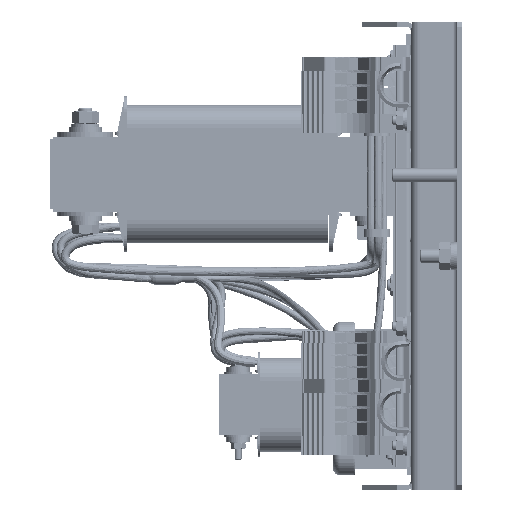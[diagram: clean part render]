
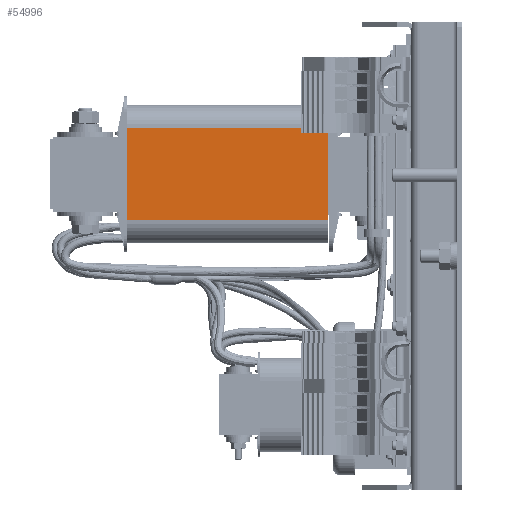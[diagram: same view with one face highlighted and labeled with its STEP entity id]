
A CAD part, left-side view. The second image highlights one B-rep face of the part: STEP entity #54996.
In plain terms, the highlighted planar face has unit normal (-1, 0, 0).
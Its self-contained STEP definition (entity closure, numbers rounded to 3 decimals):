
#54155=DIRECTION('',(0.,0.,-1.));
#54156=VECTOR('',#54155,39.);
#54157=CARTESIAN_POINT('',(-29.,121.15,54.5));
#54158=LINE('',#54157,#54156);
#54386=DIRECTION('',(0.,0.,-1.));
#54387=VECTOR('',#54386,39.);
#54388=CARTESIAN_POINT('',(-29.,35.15,54.5));
#54389=LINE('',#54388,#54387);
#54416=DIRECTION('',(0.,1.,0.));
#54417=VECTOR('',#54416,86.);
#54418=CARTESIAN_POINT('',(-29.,35.15,15.5));
#54419=LINE('',#54418,#54417);
#54420=DIRECTION('',(0.,1.,0.));
#54421=VECTOR('',#54420,86.);
#54422=CARTESIAN_POINT('',(-29.,35.15,54.5));
#54423=LINE('',#54422,#54421);
#54501=CARTESIAN_POINT('',(-29.,121.15,15.5));
#54503=VERTEX_POINT('',#54501);
#54504=CARTESIAN_POINT('',(-29.,35.15,15.5));
#54505=VERTEX_POINT('',#54504);
#54508=CARTESIAN_POINT('',(-29.,121.15,54.5));
#54510=VERTEX_POINT('',#54508);
#54514=CARTESIAN_POINT('',(-29.,35.15,54.5));
#54515=VERTEX_POINT('',#54514);
#54984=CARTESIAN_POINT('',(-29.,121.15,64.5));
#54985=DIRECTION('',(-1.,0.,0.));
#54986=DIRECTION('',(0.,0.,-1.));
#54987=AXIS2_PLACEMENT_3D('',#54984,#54985,#54986);
#54988=PLANE('',#54987);
#54989=ORIENTED_EDGE('',*,*,#54977,.T.);
#54990=ORIENTED_EDGE('',*,*,#54603,.F.);
#54992=ORIENTED_EDGE('',*,*,#54991,.F.);
#54993=ORIENTED_EDGE('',*,*,#54925,.T.);
#54994=EDGE_LOOP('',(#54989,#54990,#54992,#54993));
#54995=FACE_OUTER_BOUND('',#54994,.F.);
#54603=EDGE_CURVE('',#54510,#54503,#54158,.T.);
#54925=EDGE_CURVE('',#54515,#54505,#54389,.T.);
#54977=EDGE_CURVE('',#54505,#54503,#54419,.T.);
#54991=EDGE_CURVE('',#54515,#54510,#54423,.T.);
#54996=ADVANCED_FACE('',(#54995),#54988,.T.);
